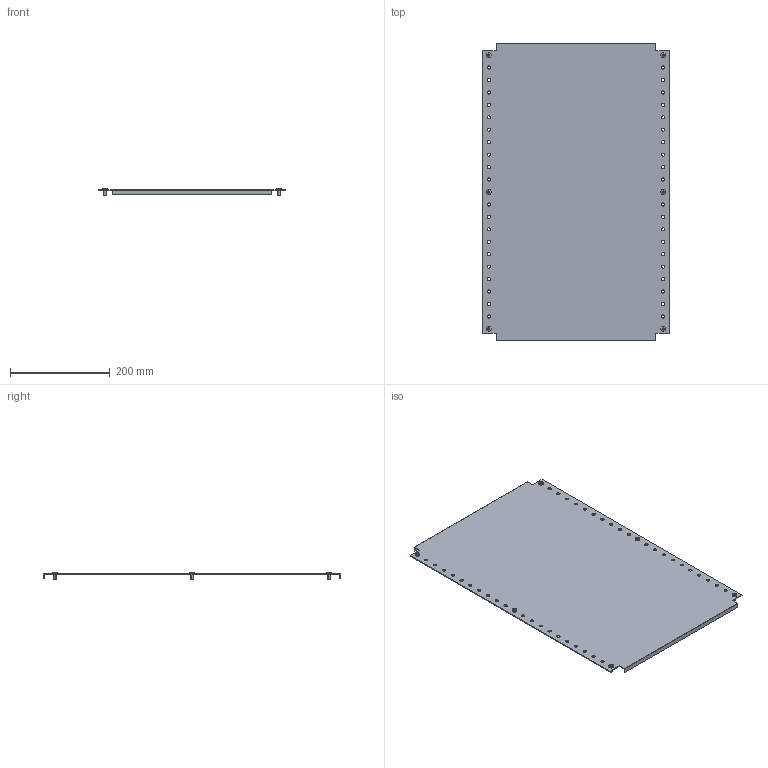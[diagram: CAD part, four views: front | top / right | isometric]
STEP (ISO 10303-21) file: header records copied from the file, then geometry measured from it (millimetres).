
FILE_DESCRIPTION (( 'STEP AP203' ), '1' );
FILE_NAME ('R6MPP06450.STEP', '2025-05-16T08:15:41', ( '' ), ( '' ), 'SwSTEP 2.0', 'SolidWorks 2022', '' );
FILE_SCHEMA (( 'CONFIG_CONTROL_DESIGN' ));
Length unit declared in the file: millimetre
Products named in the file (3): RB.3313.00.00.0 simple_-16; M5x12 DIN 7500 C Torx Zinc_stright; R6MPP06450
Assembly tree (7 placements, depth 2):
  R6MPP06450
    RB.3313.00.00.0 simple_-16
    M5x12 DIN 7500 C Torx Zinc_stright  x6
Bounding box: 375 x 598 x 15.56 mm (x, y, z)
Volume: 409979.6 mm3; surface area: 460539.2 mm2
Topology: 7 solids, 7 shells, 262 faces, 648 edges, 394 vertices
Faces by surface type: cylinder 116, plane 74, cone 24, torus 24, bspline 12, sphere 12
Entity records: 5487 total; most frequent: CARTESIAN_POINT 1019, DIRECTION 898, ORIENTED_EDGE 792, EDGE_CURVE 396, AXIS2_PLACEMENT_3D 362, VERTEX_POINT 259, EDGE_LOOP 235, CIRCLE 212
